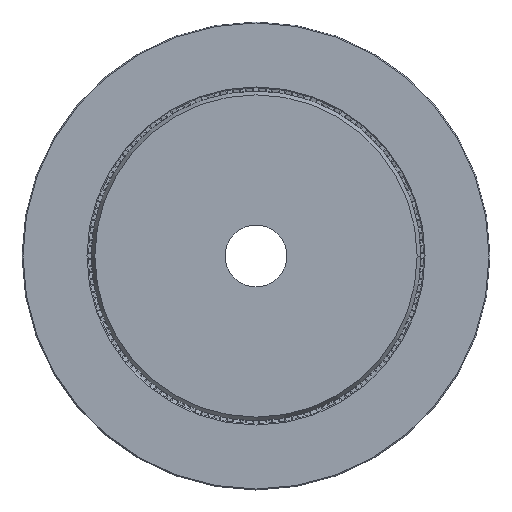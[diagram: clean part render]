
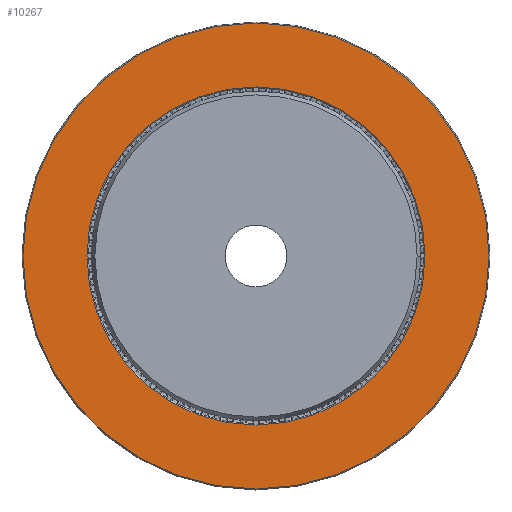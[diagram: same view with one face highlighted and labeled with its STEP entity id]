
A CAD part, top view. The second image highlights one B-rep face of the part: STEP entity #10267.
In plain terms, the highlighted planar face has unit normal (0, 0, 1).
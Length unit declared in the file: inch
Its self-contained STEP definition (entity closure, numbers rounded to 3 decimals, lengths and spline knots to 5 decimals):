
#1768 = DIRECTION ( 'NONE',  ( 0., 0., -1. ) ) ;
#2170 = AXIS2_PLACEMENT_3D ( 'NONE', #4874, #29891, #8444 ) ;
#3055 = CARTESIAN_POINT ( 'NONE',  ( 0., 0., 0.375 ) ) ;
#4401 = FACE_OUTER_BOUND ( 'NONE', #41152, .T. ) ;
#4874 = CARTESIAN_POINT ( 'NONE',  ( 0., 0., 0.375 ) ) ;
#5130 = AXIS2_PLACEMENT_3D ( 'NONE', #8964, #1768, #37626 ) ;
#5382 = PLANE ( 'NONE',  #5130 ) ;
#6646 = DIRECTION ( 'NONE',  ( -1., 0., 0. ) ) ;
#8055 = VERTEX_POINT ( 'NONE', #22397 ) ;
#8444 = DIRECTION ( 'NONE',  ( -1., 0., 0. ) ) ;
#8964 = CARTESIAN_POINT ( 'NONE',  ( 0., 7.55, 0.375 ) ) ;
#9694 = VERTEX_POINT ( 'NONE', #14572 ) ;
#10187 = CIRCLE ( 'NONE', #39226, 5.455 ) ;
#10267 = ADVANCED_FACE ( 'NONE', ( #31809, #4401 ), #5382, .F. ) ;
#10570 = VERTEX_POINT ( 'NONE', #26066 ) ;
#10884 = ORIENTED_EDGE ( 'NONE', *, *, #11806, .T. ) ;
#11137 = AXIS2_PLACEMENT_3D ( 'NONE', #3055, #28101, #6646 ) ;
#11261 = CARTESIAN_POINT ( 'NONE',  ( 5.455, 0., 0.375 ) ) ;
#11806 = EDGE_CURVE ( 'NONE', #9694, #8055, #35109, .T. ) ;
#12348 = AXIS2_PLACEMENT_3D ( 'NONE', #34613, #13207, #38258 ) ;
#12378 = CARTESIAN_POINT ( 'NONE',  ( 0., 0., 0.375 ) ) ;
#12649 = EDGE_CURVE ( 'NONE', #10570, #19794, #36841, .T. ) ;
#13207 = DIRECTION ( 'NONE',  ( 0., 0., 1. ) ) ;
#14572 = CARTESIAN_POINT ( 'NONE',  ( -7.52, 0., 0.375 ) ) ;
#16019 = DIRECTION ( 'NONE',  ( -1., 0., 0. ) ) ;
#18353 = EDGE_CURVE ( 'NONE', #19794, #10570, #10187, .T. ) ;
#19794 = VERTEX_POINT ( 'NONE', #11261 ) ;
#20272 = ORIENTED_EDGE ( 'NONE', *, *, #37226, .T. ) ;
#22397 = CARTESIAN_POINT ( 'NONE',  ( 7.52, 0., 0.375 ) ) ;
#24724 = ORIENTED_EDGE ( 'NONE', *, *, #12649, .T. ) ;
#26066 = CARTESIAN_POINT ( 'NONE',  ( -5.455, 0., 0.375 ) ) ;
#28101 = DIRECTION ( 'NONE',  ( 0., 0., 1. ) ) ;
#29891 = DIRECTION ( 'NONE',  ( 0., 0., -1. ) ) ;
#31809 = FACE_BOUND ( 'NONE', #38316, .T. ) ;
#31904 = CIRCLE ( 'NONE', #12348, 7.52 ) ;
#33254 = ORIENTED_EDGE ( 'NONE', *, *, #18353, .T. ) ;
#34613 = CARTESIAN_POINT ( 'NONE',  ( 0., 0., 0.375 ) ) ;
#35109 = CIRCLE ( 'NONE', #11137, 7.52 ) ;
#36841 = CIRCLE ( 'NONE', #2170, 5.455 ) ;
#37226 = EDGE_CURVE ( 'NONE', #8055, #9694, #31904, .T. ) ;
#37418 = DIRECTION ( 'NONE',  ( 0., 0., -1. ) ) ;
#37626 = DIRECTION ( 'NONE',  ( -1., 0., 0. ) ) ;
#38258 = DIRECTION ( 'NONE',  ( -1., 0., 0. ) ) ;
#38316 = EDGE_LOOP ( 'NONE', ( #33254, #24724 ) ) ;
#39226 = AXIS2_PLACEMENT_3D ( 'NONE', #12378, #37418, #16019 ) ;
#41152 = EDGE_LOOP ( 'NONE', ( #10884, #20272 ) ) ;
